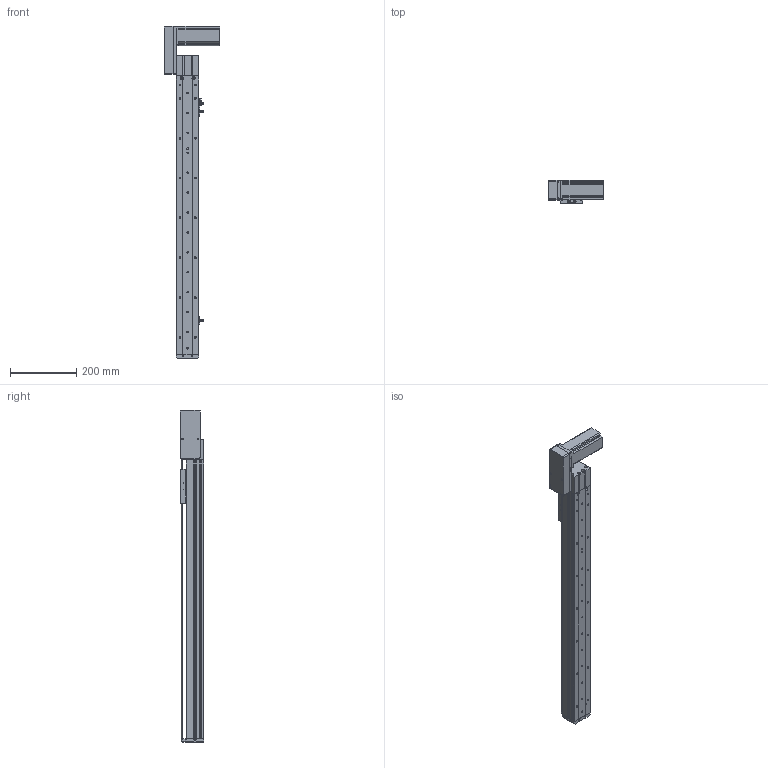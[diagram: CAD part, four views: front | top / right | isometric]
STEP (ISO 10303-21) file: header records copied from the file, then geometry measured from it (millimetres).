
FILE_DESCRIPTION (( 'STEP AP214' ), '1' );
FILE_NAME ('KSD68BS-S650-MRB-CM.STEP', '2019-11-06T07:25:19', ( '微软用户' ), ( '微软中国' ), 'SwSTEP 2.0', 'SolidWorks 2014', '' );
FILE_SCHEMA (( 'AUTOMOTIVE_DESIGN' ));
Length unit declared in the file: millimetre
Products named in the file (11): 68宽马达安装板连板上折同步带; 68宽单导轨半封闭同步带主动轮座右; 68单导轨同步带半封闭端板; KSD68BS 650俴最裔啣圉猾敕; 覜茼え68遵圉猾敕; KSD68BS半封闭同步带传动导轨座; U倰嫖萇EEㄜSX672; 台达ECMA－C20604AS伺服电机（400W); KSD68BS 650俴最菁啣圉猾敕; KSD68BS-S650-MRB-CM; 悵誘欶奻狟殏
Assembly tree (12 placements, depth 2):
  KSD68BS-S650-MRB-CM
    KSD68BS 650俴最菁啣圉猾敕
    台达ECMA－C20604AS伺服电机（400W)
    U倰嫖萇EEㄜSX672  x3
    KSD68BS半封闭同步带传动导轨座
    覜茼え68遵圉猾敕
    KSD68BS 650俴最裔啣圉猾敕
    68单导轨同步带半封闭端板
    68宽单导轨半封闭同步带主动轮座右
    68宽马达安装板连板上折同步带
    悵誘欶奻狟殏
Bounding box: 167.2 x 70.5 x 999.5 mm (x, y, z)
Volume: 1928515.2 mm3; surface area: 648229.2 mm2
Topology: 13 solids, 13 shells, 1334 faces, 3814 edges, 2478 vertices
Faces by surface type: cylinder 656, plane 595, cone 83
Entity records: 48353 total; most frequent: CARTESIAN_POINT 9098, ORIENTED_EDGE 6380, DIRECTION 6336, EDGE_CURVE 3190, AXIS2_PLACEMENT_3D 2268, VERTEX_POINT 2102, LINE 1800, VECTOR 1800
